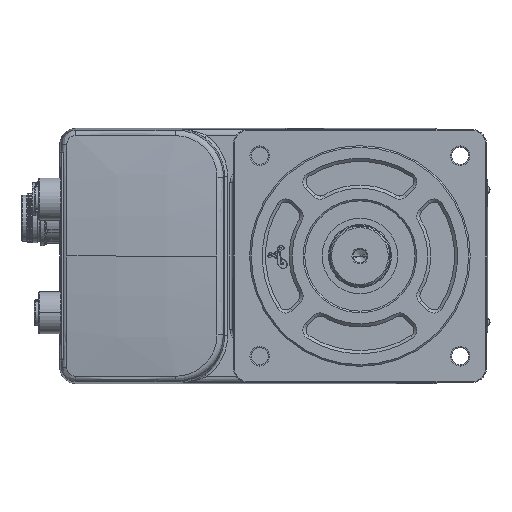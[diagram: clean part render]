
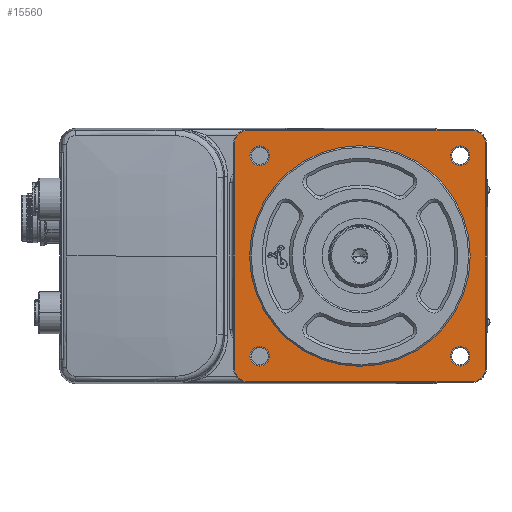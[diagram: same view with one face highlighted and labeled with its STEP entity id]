
A CAD part, left-side view. The second image highlights one B-rep face of the part: STEP entity #15560.
In plain terms, the highlighted planar face has unit normal (-1, 0, 0).
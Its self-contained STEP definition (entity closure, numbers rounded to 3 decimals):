
#2329=CARTESIAN_POINT('',(-128.,-35.25,35.25));
#2330=DIRECTION('',(-1.,0.,0.));
#2331=DIRECTION('',(0.,-1.,0.));
#2332=AXIS2_PLACEMENT_3D('',#2329,#2330,#2331);
#2334=CARTESIAN_POINT('',(-128.,-35.25,-35.25));
#2335=DIRECTION('',(-1.,0.,0.));
#2336=DIRECTION('',(0.,0.,-1.));
#2337=AXIS2_PLACEMENT_3D('',#2334,#2335,#2336);
#2339=CARTESIAN_POINT('',(-128.,35.25,-35.25));
#2340=DIRECTION('',(-1.,0.,0.));
#2341=DIRECTION('',(0.,1.,0.));
#2342=AXIS2_PLACEMENT_3D('',#2339,#2340,#2341);
#2344=CARTESIAN_POINT('',(-128.,35.25,35.25));
#2345=DIRECTION('',(-1.,0.,0.));
#2346=DIRECTION('',(0.,0.,1.));
#2347=AXIS2_PLACEMENT_3D('',#2344,#2345,#2346);
#2349=CARTESIAN_POINT('',(-128.,-31.82,-31.82));
#2350=DIRECTION('',(1.,0.,0.));
#2351=DIRECTION('',(0.,0.,-1.));
#2352=AXIS2_PLACEMENT_3D('',#2349,#2350,#2351);
#2354=CARTESIAN_POINT('',(-128.,-31.82,-31.82));
#2355=DIRECTION('',(1.,0.,0.));
#2356=DIRECTION('',(0.,0.,1.));
#2357=AXIS2_PLACEMENT_3D('',#2354,#2355,#2356);
#2359=CARTESIAN_POINT('',(-128.,-31.82,31.82));
#2360=DIRECTION('',(1.,0.,0.));
#2361=DIRECTION('',(0.,0.,-1.));
#2362=AXIS2_PLACEMENT_3D('',#2359,#2360,#2361);
#2364=CARTESIAN_POINT('',(-128.,-31.82,31.82));
#2365=DIRECTION('',(1.,0.,0.));
#2366=DIRECTION('',(0.,0.,1.));
#2367=AXIS2_PLACEMENT_3D('',#2364,#2365,#2366);
#2369=CARTESIAN_POINT('',(-128.,31.82,31.82));
#2370=DIRECTION('',(1.,0.,0.));
#2371=DIRECTION('',(0.,0.,-1.));
#2372=AXIS2_PLACEMENT_3D('',#2369,#2370,#2371);
#2374=CARTESIAN_POINT('',(-128.,31.82,31.82));
#2375=DIRECTION('',(1.,0.,0.));
#2376=DIRECTION('',(0.,0.,1.));
#2377=AXIS2_PLACEMENT_3D('',#2374,#2375,#2376);
#2379=CARTESIAN_POINT('',(-128.,31.82,-31.82));
#2380=DIRECTION('',(1.,0.,0.));
#2381=DIRECTION('',(0.,0.,-1.));
#2382=AXIS2_PLACEMENT_3D('',#2379,#2380,#2381);
#2384=CARTESIAN_POINT('',(-128.,31.82,-31.82));
#2385=DIRECTION('',(1.,0.,0.));
#2386=DIRECTION('',(0.,0.,1.));
#2387=AXIS2_PLACEMENT_3D('',#2384,#2385,#2386);
#2389=CARTESIAN_POINT('',(-128.,0.,0.));
#2390=DIRECTION('',(1.,0.,0.));
#2391=DIRECTION('',(0.,0.,-1.));
#2392=AXIS2_PLACEMENT_3D('',#2389,#2390,#2391);
#2394=CARTESIAN_POINT('',(-128.,0.,0.));
#2395=DIRECTION('',(1.,0.,0.));
#2396=DIRECTION('',(0.,0.,1.));
#2397=AXIS2_PLACEMENT_3D('',#2394,#2395,#2396);
#2399=DIRECTION('',(0.,1.,0.));
#2400=VECTOR('',#2399,70.5);
#2401=CARTESIAN_POINT('',(-128.,-35.25,39.95));
#2402=LINE('',#2401,#2400);
#2422=DIRECTION('',(0.,0.,1.));
#2423=VECTOR('',#2422,70.5);
#2424=CARTESIAN_POINT('',(-128.,-39.95,-35.25));
#2425=LINE('',#2424,#2423);
#2449=DIRECTION('',(0.,-1.,0.));
#2450=VECTOR('',#2449,70.5);
#2451=CARTESIAN_POINT('',(-128.,35.25,-39.95));
#2452=LINE('',#2451,#2450);
#3157=DIRECTION('',(0.,0.,-1.));
#3158=VECTOR('',#3157,70.5);
#3159=CARTESIAN_POINT('',(-128.,39.95,35.25));
#3160=LINE('',#3159,#3158);
#10453=CARTESIAN_POINT('',(-128.,0.,-35.));
#10454=CARTESIAN_POINT('',(-128.,0.,35.));
#10455=VERTEX_POINT('',#10453);
#10456=VERTEX_POINT('',#10454);
#10457=CARTESIAN_POINT('',(-128.,-35.25,39.95));
#10458=CARTESIAN_POINT('',(-128.,35.25,39.95));
#10459=VERTEX_POINT('',#10457);
#10460=VERTEX_POINT('',#10458);
#10461=CARTESIAN_POINT('',(-128.,-39.95,35.25));
#10462=VERTEX_POINT('',#10461);
#10463=CARTESIAN_POINT('',(-128.,-39.95,-35.25));
#10464=VERTEX_POINT('',#10463);
#10465=CARTESIAN_POINT('',(-128.,-35.25,-39.95));
#10466=VERTEX_POINT('',#10465);
#10467=CARTESIAN_POINT('',(-128.,35.25,-39.95));
#10468=VERTEX_POINT('',#10467);
#10469=CARTESIAN_POINT('',(-128.,39.95,-35.25));
#10470=VERTEX_POINT('',#10469);
#10471=CARTESIAN_POINT('',(-128.,39.95,35.25));
#10472=VERTEX_POINT('',#10471);
#10473=CARTESIAN_POINT('',(-128.,-31.82,-34.92));
#10474=CARTESIAN_POINT('',(-128.,-31.82,-28.72));
#10475=VERTEX_POINT('',#10473);
#10476=VERTEX_POINT('',#10474);
#10477=CARTESIAN_POINT('',(-128.,-31.82,28.72));
#10478=CARTESIAN_POINT('',(-128.,-31.82,34.92));
#10479=VERTEX_POINT('',#10477);
#10480=VERTEX_POINT('',#10478);
#10481=CARTESIAN_POINT('',(-128.,31.82,28.72));
#10482=CARTESIAN_POINT('',(-128.,31.82,34.92));
#10483=VERTEX_POINT('',#10481);
#10484=VERTEX_POINT('',#10482);
#10485=CARTESIAN_POINT('',(-128.,31.82,-34.92));
#10486=CARTESIAN_POINT('',(-128.,31.82,-28.72));
#10487=VERTEX_POINT('',#10485);
#10488=VERTEX_POINT('',#10486);
#15509=CARTESIAN_POINT('',(-128.,0.,0.));
#15510=DIRECTION('',(1.,0.,0.));
#15511=DIRECTION('',(0.,-1.,0.));
#15512=AXIS2_PLACEMENT_3D('',#15509,#15510,#15511);
#15513=PLANE('',#15512);
#15515=ORIENTED_EDGE('',*,*,#15514,.F.);
#15517=ORIENTED_EDGE('',*,*,#15516,.F.);
#15519=ORIENTED_EDGE('',*,*,#15518,.F.);
#15521=ORIENTED_EDGE('',*,*,#15520,.F.);
#15523=ORIENTED_EDGE('',*,*,#15522,.F.);
#15525=ORIENTED_EDGE('',*,*,#15524,.F.);
#15527=ORIENTED_EDGE('',*,*,#15526,.F.);
#15529=ORIENTED_EDGE('',*,*,#15528,.F.);
#15530=EDGE_LOOP('',(#15515,#15517,#15519,#15521,#15523,#15525,#15527,#15529));
#15531=FACE_OUTER_BOUND('',#15530,.F.);
#15533=ORIENTED_EDGE('',*,*,#15532,.F.);
#15535=ORIENTED_EDGE('',*,*,#15534,.F.);
#15536=EDGE_LOOP('',(#15533,#15535));
#15537=FACE_BOUND('',#15536,.F.);
#15538=ORIENTED_EDGE('',*,*,#15477,.F.);
#15539=ORIENTED_EDGE('',*,*,#15497,.F.);
#15540=EDGE_LOOP('',(#15538,#15539));
#15541=FACE_BOUND('',#15540,.F.);
#15543=ORIENTED_EDGE('',*,*,#15542,.F.);
#15545=ORIENTED_EDGE('',*,*,#15544,.F.);
#15546=EDGE_LOOP('',(#15543,#15545));
#15547=FACE_BOUND('',#15546,.F.);
#15549=ORIENTED_EDGE('',*,*,#15548,.F.);
#15551=ORIENTED_EDGE('',*,*,#15550,.F.);
#15552=EDGE_LOOP('',(#15549,#15551));
#15553=FACE_BOUND('',#15552,.F.);
#15555=ORIENTED_EDGE('',*,*,#15554,.F.);
#15557=ORIENTED_EDGE('',*,*,#15556,.F.);
#15558=EDGE_LOOP('',(#15555,#15557));
#15559=FACE_BOUND('',#15558,.F.);
#2333=CIRCLE('',#2332,4.7);
#2338=CIRCLE('',#2337,4.7);
#2343=CIRCLE('',#2342,4.7);
#2348=CIRCLE('',#2347,4.7);
#2353=CIRCLE('',#2352,3.1);
#2358=CIRCLE('',#2357,3.1);
#2363=CIRCLE('',#2362,3.1);
#2368=CIRCLE('',#2367,3.1);
#2373=CIRCLE('',#2372,3.1);
#2378=CIRCLE('',#2377,3.1);
#2383=CIRCLE('',#2382,3.1);
#2388=CIRCLE('',#2387,3.1);
#2393=CIRCLE('',#2392,35.);
#2398=CIRCLE('',#2397,35.);
#15477=EDGE_CURVE('',#10479,#10480,#2363,.T.);
#15497=EDGE_CURVE('',#10480,#10479,#2368,.T.);
#15514=EDGE_CURVE('',#10459,#10460,#2402,.T.);
#15516=EDGE_CURVE('',#10462,#10459,#2333,.T.);
#15518=EDGE_CURVE('',#10464,#10462,#2425,.T.);
#15520=EDGE_CURVE('',#10466,#10464,#2338,.T.);
#15522=EDGE_CURVE('',#10468,#10466,#2452,.T.);
#15524=EDGE_CURVE('',#10470,#10468,#2343,.T.);
#15526=EDGE_CURVE('',#10472,#10470,#3160,.T.);
#15528=EDGE_CURVE('',#10460,#10472,#2348,.T.);
#15532=EDGE_CURVE('',#10475,#10476,#2353,.T.);
#15534=EDGE_CURVE('',#10476,#10475,#2358,.T.);
#15542=EDGE_CURVE('',#10483,#10484,#2373,.T.);
#15544=EDGE_CURVE('',#10484,#10483,#2378,.T.);
#15548=EDGE_CURVE('',#10487,#10488,#2383,.T.);
#15550=EDGE_CURVE('',#10488,#10487,#2388,.T.);
#15554=EDGE_CURVE('',#10455,#10456,#2393,.T.);
#15556=EDGE_CURVE('',#10456,#10455,#2398,.T.);
#15560=ADVANCED_FACE('',(#15531,#15537,#15541,#15547,#15553,#15559),#15513,.F.);
